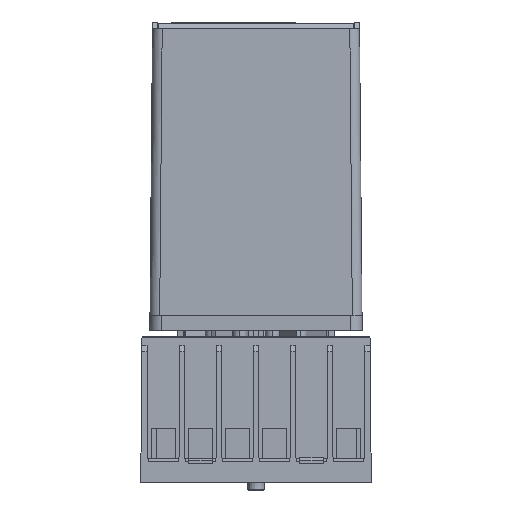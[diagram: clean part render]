
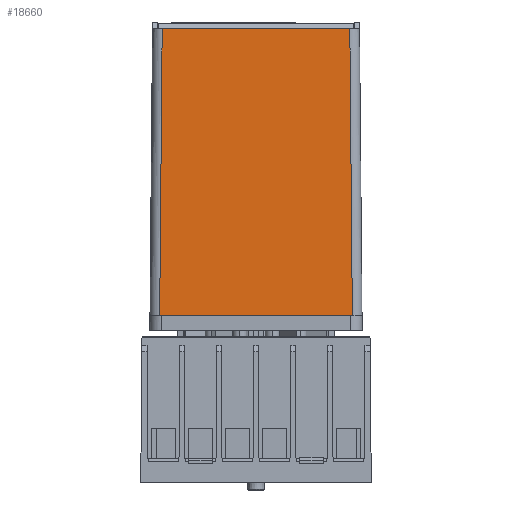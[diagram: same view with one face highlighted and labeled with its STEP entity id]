
A CAD part, front view. The second image highlights one B-rep face of the part: STEP entity #18660.
In plain terms, the highlighted planar face has unit normal (0, -1, 0.009).
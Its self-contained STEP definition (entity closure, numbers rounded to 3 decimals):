
#234 = CARTESIAN_POINT ( 'NONE',  ( 34.789, 20.021, 28.8 ) ) ;
#721 = LINE ( 'NONE', #1348, #55016 ) ;
#1348 = CARTESIAN_POINT ( 'NONE',  ( 3.531, 20.431, 75.802 ) ) ;
#1551 = CARTESIAN_POINT ( 'NONE',  ( 3.21, 20.021, 28.8 ) ) ;
#3221 = CARTESIAN_POINT ( 'NONE',  ( 34.79, 20.021, 28.8 ) ) ;
#4154 = EDGE_CURVE ( 'NONE', #22455, #39584, #721, .T. ) ;
#5192 = CARTESIAN_POINT ( 'NONE',  ( 34.467, 20.433, 76. ) ) ;
#5276 = ORIENTED_EDGE ( 'NONE', *, *, #39057, .F. ) ;
#5627 = DIRECTION ( 'NONE',  ( 1., 0., 0. ) ) ;
#5764 = ORIENTED_EDGE ( 'NONE', *, *, #52303, .T. ) ;
#6250 = DIRECTION ( 'NONE',  ( 1., 0., 0. ) ) ;
#9230 = VECTOR ( 'NONE', #6250, 1000. ) ;
#10406 = LINE ( 'NONE', #11038, #31771 ) ;
#10418 = LINE ( 'NONE', #54598, #9230 ) ;
#10655 = ORIENTED_EDGE ( 'NONE', *, *, #51111, .T. ) ;
#10780 = VECTOR ( 'NONE', #25263, 1000. ) ;
#11038 = CARTESIAN_POINT ( 'NONE',  ( 1.5, 20.021, 28.8 ) ) ;
#11417 = CARTESIAN_POINT ( 'NONE',  ( 3.121, 20.021, 28.8 ) ) ;
#15144 = CARTESIAN_POINT ( 'NONE',  ( 34.79, 20.021, 28.8 ) ) ;
#15467 = DIRECTION ( 'NONE',  ( 1., 0., 0. ) ) ;
#15733 = DIRECTION ( 'NONE',  ( 0.009, 0.009, 1. ) ) ;
#15778 = FACE_OUTER_BOUND ( 'NONE', #42455, .T. ) ;
#16155 = ORIENTED_EDGE ( 'NONE', *, *, #38327, .T. ) ;
#16220 = CARTESIAN_POINT ( 'NONE',  ( 3.211, 20.021, 28.8 ) ) ;
#16379 = CARTESIAN_POINT ( 'NONE',  ( 34.79, 20.021, 28.8 ) ) ;
#17161 = DIRECTION ( 'NONE',  ( -0.009, 0.009, 1. ) ) ;
#17779 = ORIENTED_EDGE ( 'NONE', *, *, #18347, .T. ) ;
#18347 = EDGE_CURVE ( 'NONE', #22455, #51096, #10418, .T. ) ;
#18660 = ADVANCED_FACE ( 'NONE', ( #15778 ), #45237, .T. ) ;
#18901 = VERTEX_POINT ( 'NONE', #45163 ) ;
#20010 = CARTESIAN_POINT ( 'NONE',  ( 3.209, 20.021, 28.8 ) ) ;
#20880 = CARTESIAN_POINT ( 'NONE',  ( 34.789, 20.021, 28.8 ) ) ;
#22455 = VERTEX_POINT ( 'NONE', #11417 ) ;
#25263 = DIRECTION ( 'NONE',  ( -1., 0., 0. ) ) ;
#26088 = ORIENTED_EDGE ( 'NONE', *, *, #60496, .F. ) ;
#26105 = VERTEX_POINT ( 'NONE', #234 ) ;
#28924 = CARTESIAN_POINT ( 'NONE',  ( 0.649, 20.433, 76. ) ) ;
#30591 = CARTESIAN_POINT ( 'NONE',  ( 34.879, 20.021, 28.8 ) ) ;
#31771 = VECTOR ( 'NONE', #5627, 1000. ) ;
#32625 = VERTEX_POINT ( 'NONE', #5192 ) ;
#35402 = CARTESIAN_POINT ( 'NONE',  ( 3.21, 20.021, 28.8 ) ) ;
#35798 = CARTESIAN_POINT ( 'NONE',  ( 0.649, 20.021, 28.8 ) ) ;
#35887 = CARTESIAN_POINT ( 'NONE',  ( 34.79, 20.021, 28.8 ) ) ;
#36816 = AXIS2_PLACEMENT_3D ( 'NONE', #39480, #44612, #54848 ) ;
#38327 = EDGE_CURVE ( 'NONE', #51096, #40770, #59259, .T. ) ;
#39057 = EDGE_CURVE ( 'NONE', #26105, #40770, #49925, .T. ) ;
#39480 = CARTESIAN_POINT ( 'NONE',  ( 0.649, 20., 26.4 ) ) ;
#39584 = VERTEX_POINT ( 'NONE', #47145 ) ;
#40770 = VERTEX_POINT ( 'NONE', #51785 ) ;
#41525 = CARTESIAN_POINT ( 'NONE',  ( 3.209, 20.021, 28.8 ) ) ;
#42455 = EDGE_LOOP ( 'NONE', ( #55300, #26088, #58226, #17779, #16155, #5276, #5764, #10655 ) ) ;
#44612 = DIRECTION ( 'NONE',  ( 0., -1., 0.009 ) ) ;
#45163 = CARTESIAN_POINT ( 'NONE',  ( 34.879, 20.021, 28.8 ) ) ;
#45237 = PLANE ( 'NONE',  #36816 ) ;
#46658 = LINE ( 'NONE', #30591, #49328 ) ;
#47145 = CARTESIAN_POINT ( 'NONE',  ( 3.533, 20.433, 76. ) ) ;
#47596 = EDGE_CURVE ( 'NONE', #18901, #32625, #46658, .T. ) ;
#49328 = VECTOR ( 'NONE', #17161, 1000. ) ;
#49693 = LINE ( 'NONE', #28924, #61871 ) ;
#49925 = LINE ( 'NONE', #35798, #10780 ) ;
#51096 = VERTEX_POINT ( 'NONE', #20010 ) ;
#51111 = EDGE_CURVE ( 'NONE', #57711, #18901, #10406, .T. ) ;
#51639 = B_SPLINE_CURVE_WITH_KNOTS ( 'NONE', 3,
 ( #20880, #15144, #16379, #35887 ),
 .UNSPECIFIED., .F., .F.,
 ( 4, 4 ),
 ( 0., 1. ),
 .UNSPECIFIED. ) ;
#51785 = CARTESIAN_POINT ( 'NONE',  ( 3.211, 20.021, 28.8 ) ) ;
#52303 = EDGE_CURVE ( 'NONE', #26105, #57711, #51639, .T. ) ;
#54598 = CARTESIAN_POINT ( 'NONE',  ( 1.5, 20.021, 28.8 ) ) ;
#54848 = DIRECTION ( 'NONE',  ( 0., 0.009, 1. ) ) ;
#55016 = VECTOR ( 'NONE', #15733, 1000. ) ;
#55300 = ORIENTED_EDGE ( 'NONE', *, *, #47596, .T. ) ;
#57711 = VERTEX_POINT ( 'NONE', #3221 ) ;
#58226 = ORIENTED_EDGE ( 'NONE', *, *, #4154, .F. ) ;
#59259 = B_SPLINE_CURVE_WITH_KNOTS ( 'NONE', 3,
 ( #41525, #35402, #1551, #16220 ),
 .UNSPECIFIED., .F., .F.,
 ( 4, 4 ),
 ( 0., 1. ),
 .UNSPECIFIED. ) ;
#60496 = EDGE_CURVE ( 'NONE', #39584, #32625, #49693, .T. ) ;
#61871 = VECTOR ( 'NONE', #15467, 1000. ) ;
